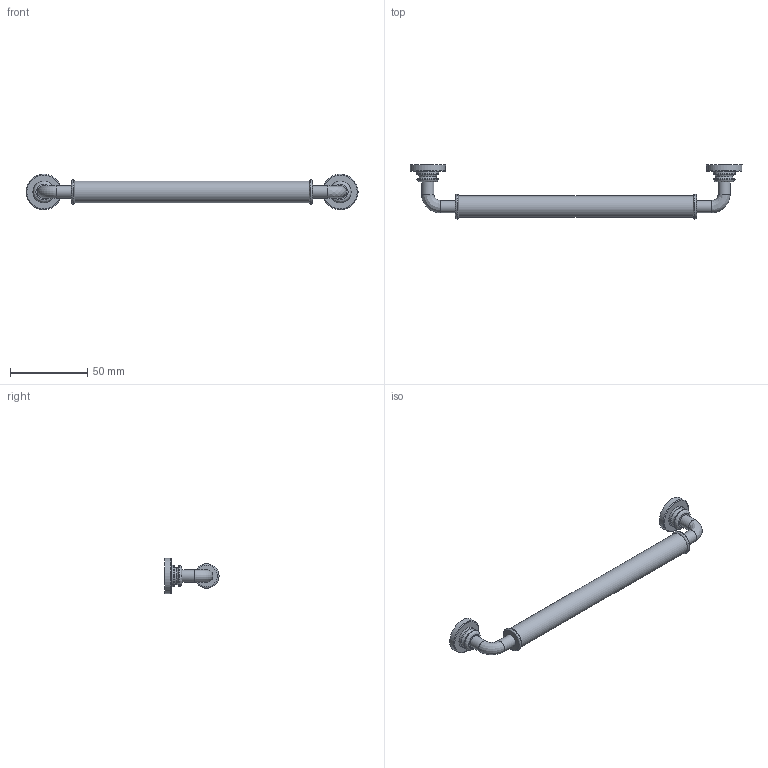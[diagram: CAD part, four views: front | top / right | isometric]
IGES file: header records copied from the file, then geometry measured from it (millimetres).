
Start section: Data from Parasolid IGES Translator 15.0.47, Copyright(c) 2006 Siemens P LM Software. All Rights Reserved.
Global section: file name: 9132270.igs; native system:  By UGS Corp.; preprocessor: XPlus GENERIC/IGES 3.0; author: Noname; organization: Noname; date: 20140122.102052; units: millimetre
Bounding box: 215 x 35 x 23 mm (x, y, z)
Surface area: 11712.9 mm2 (no closed solid volume)
Topology: 0 solids, 0 shells, 50 faces, 228 edges, 188 vertices
Faces by surface type: revolution 42, extrusion 8
